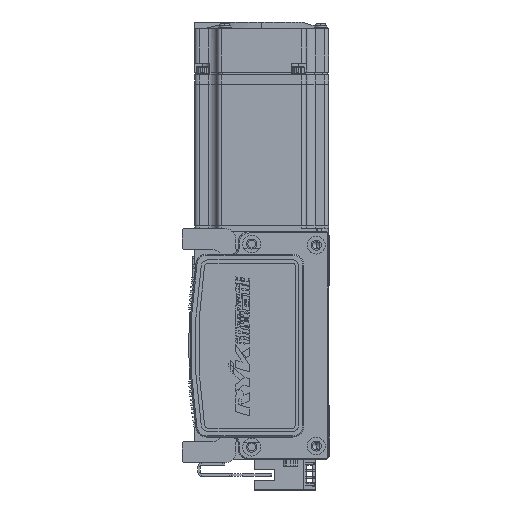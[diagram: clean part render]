
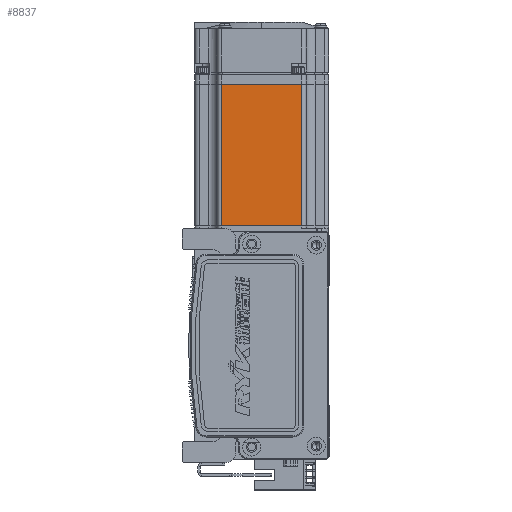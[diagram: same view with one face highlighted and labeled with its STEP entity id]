
A CAD part, left-side view. The second image highlights one B-rep face of the part: STEP entity #8837.
In plain terms, the highlighted planar face has unit normal (-1, 0, 0) as drawn and (0, 0, -1) by its records, which use the part's own axes.
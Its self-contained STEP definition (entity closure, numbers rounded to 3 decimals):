
#903 = EDGE_LOOP ( 'NONE', ( #25578, #63658, #46676, #56892 ) ) ;
#2916 = VECTOR ( 'NONE', #8618, 1000. ) ;
#4950 = VECTOR ( 'NONE', #33093, 1000. ) ;
#5278 = CARTESIAN_POINT ( 'NONE',  ( -7.75, 18., -30. ) ) ;
#8618 = DIRECTION ( 'NONE',  ( -1., 0., 0. ) ) ;
#8837 = ADVANCED_FACE ( 'NONE', ( #56821 ), #31395, .T. ) ;
#9826 = EDGE_CURVE ( 'NONE', #49024, #47636, #11115, .T. ) ;
#10957 = VECTOR ( 'NONE', #41880, 1000. ) ;
#11115 = LINE ( 'NONE', #52516, #48795 ) ;
#18615 = CARTESIAN_POINT ( 'NONE',  ( -6.5, 18., -30. ) ) ;
#19892 = LINE ( 'NONE', #27705, #4950 ) ;
#20653 = EDGE_CURVE ( 'NONE', #47636, #28896, #43382, .T. ) ;
#22523 = AXIS2_PLACEMENT_3D ( 'NONE', #53417, #59473, #25282 ) ;
#23048 = CARTESIAN_POINT ( 'NONE',  ( -70.95, -18., -30. ) ) ;
#25282 = DIRECTION ( 'NONE',  ( -1., 0., 0. ) ) ;
#25578 = ORIENTED_EDGE ( 'NONE', *, *, #54199, .T. ) ;
#27705 = CARTESIAN_POINT ( 'NONE',  ( -7.75, 25., -30. ) ) ;
#28896 = VERTEX_POINT ( 'NONE', #5278 ) ;
#31395 = PLANE ( 'NONE',  #22523 ) ;
#32756 = LINE ( 'NONE', #47819, #2916 ) ;
#33093 = DIRECTION ( 'NONE',  ( 0., -1., 0. ) ) ;
#36193 = VERTEX_POINT ( 'NONE', #44184 ) ;
#41880 = DIRECTION ( 'NONE',  ( 1., 0., 0. ) ) ;
#42764 = EDGE_CURVE ( 'NONE', #36193, #49024, #32756, .T. ) ;
#43382 = LINE ( 'NONE', #18615, #10957 ) ;
#44184 = CARTESIAN_POINT ( 'NONE',  ( -7.75, -18., -30. ) ) ;
#46676 = ORIENTED_EDGE ( 'NONE', *, *, #9826, .T. ) ;
#46879 = DIRECTION ( 'NONE',  ( 0., 1., 0. ) ) ;
#47636 = VERTEX_POINT ( 'NONE', #58870 ) ;
#47819 = CARTESIAN_POINT ( 'NONE',  ( -6.5, -18., -30. ) ) ;
#48795 = VECTOR ( 'NONE', #46879, 1000. ) ;
#49024 = VERTEX_POINT ( 'NONE', #23048 ) ;
#52516 = CARTESIAN_POINT ( 'NONE',  ( -70.95, 25., -30. ) ) ;
#53417 = CARTESIAN_POINT ( 'NONE',  ( -6.5, 25., -30. ) ) ;
#54199 = EDGE_CURVE ( 'NONE', #28896, #36193, #19892, .T. ) ;
#56821 = FACE_OUTER_BOUND ( 'NONE', #903, .T. ) ;
#56892 = ORIENTED_EDGE ( 'NONE', *, *, #20653, .T. ) ;
#58870 = CARTESIAN_POINT ( 'NONE',  ( -70.95, 18., -30. ) ) ;
#59473 = DIRECTION ( 'NONE',  ( 0., 0., -1. ) ) ;
#63658 = ORIENTED_EDGE ( 'NONE', *, *, #42764, .T. ) ;
